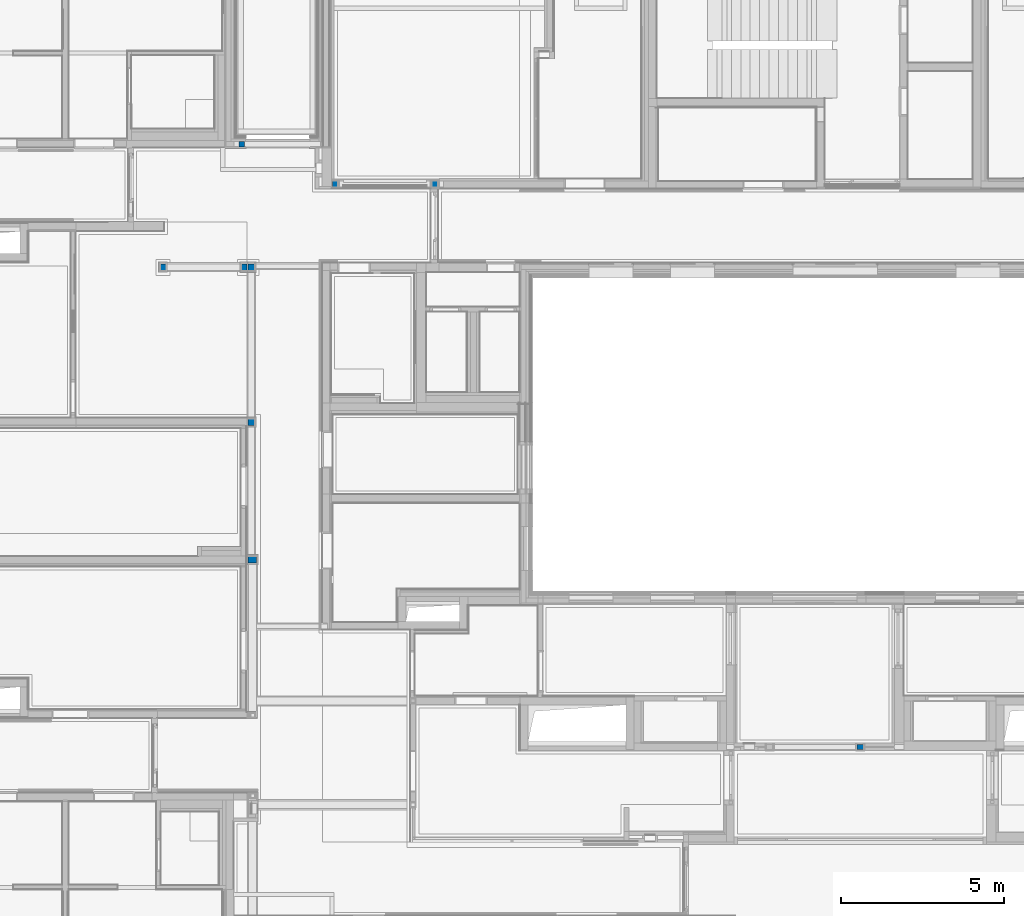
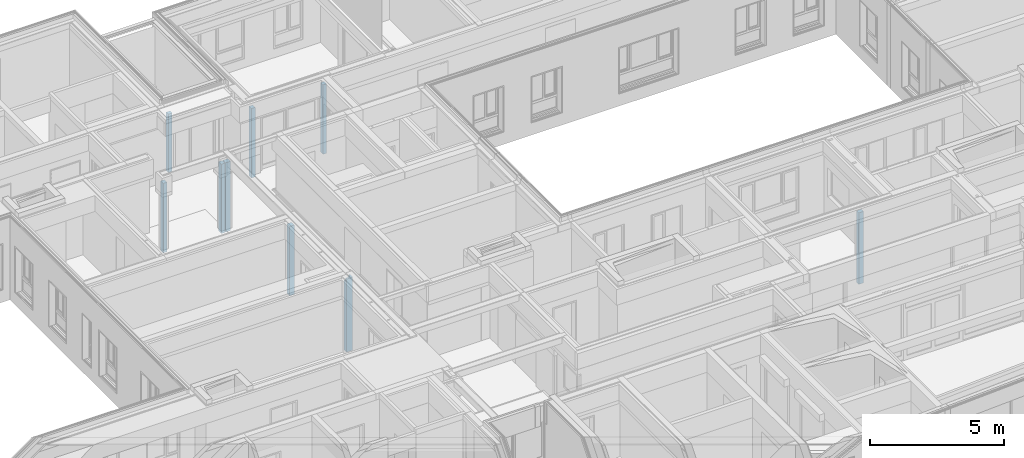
# One storey, part 2 of 222: 9 columns.
"""IFC4 building model written with IfcOpenShell, lengths in metres."""

from ifc_helpers import new_model, entity, si_unit, converted_unit, derived_unit, frame, frame_2d, origin, origin_with_axes, place, context, subcontext, project, spatial, polyline, rectangle, extrude, clip, bounded_halfspace, material, element, save


model = new_model("IFC4")

# Units and contexts
model_context = context("Model", 3, precision=1e-05, world=origin())
body_context = subcontext(model_context, "Body", "Model", "MODEL_VIEW")
ifc_project = project(units=[si_unit("LENGTHUNIT", "METRE"), si_unit("AREAUNIT", "SQUARE_METRE"), si_unit("VOLUMEUNIT", "CUBIC_METRE"), si_unit("MASSUNIT", "GRAM", prefix="KILO"), converted_unit("PLANEANGLEUNIT", "DEGREE", entity("IfcPlaneAngleMeasure", 0.0174532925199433), si_unit("PLANEANGLEUNIT", "RADIAN"), dimensions=[0, 0, 0, 0, 0, 0, 0]), derived_unit("THERMALTRANSMITTANCEUNIT", [(si_unit("POWERUNIT", "WATT"), 1), (si_unit("THERMODYNAMICTEMPERATUREUNIT", "KELVIN"), -1), (si_unit("LENGTHUNIT", "METRE"), -2)]), derived_unit("VOLUMETRICFLOWRATEUNIT", [(si_unit("LENGTHUNIT", "METRE"), 3), (converted_unit("TIMEUNIT", "hour", entity("IfcTimeMeasure", 3600.0), si_unit("TIMEUNIT", "SECOND"), dimensions=[0, 0, 1, 0, 0, 0, 0]), -1), (si_unit("LENGTHUNIT", "METRE"), -1)])], contexts=[model_context])

# Site, building, storey
site_placement = place(None, origin())
site = spatial("IfcSite", under=ifc_project, at=site_placement, Name="Psychiatrie Neubau Wunstorf", CompositionType="ELEMENT")
building_placement = place(site_placement, origin())
building = spatial("IfcBuilding", under=site, at=building_placement, Name="Neubau H2 Stationsgebäude", CompositionType="ELEMENT")
storey_placement = place(building_placement, frame((0.0, 0.0, 3.6)))
storey = spatial("IfcBuildingStorey", under=building, at=storey_placement, Name="H2 Ebene +1", CompositionType="ELEMENT", Elevation=3.6)

# Columns
ifc_material_1 = material(Name="H")
column_1_placement = place(storey_placement, frame((35.33, 24.1500036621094, 0.5)))
element("IfcColumn", 1, at=column_1_placement, inside=storey, material=ifc_material_1, PredefinedType="COLUMN", context=body_context, shape_type="SweptSolid", body=[
    extrude(rectangle(XDim=0.16, YDim=0.16, at=frame_2d((0.08, 0.08), x_axis=(1.0, 0.0))), origin_with_axes(), (0.0, 0.0, 1.0), 2.65),
])
ifc_material_2 = material(Name="H")
column_2_placement = place(storey_placement, frame((41.253, 22.9189990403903, 0.0)))
element("IfcColumn", 2, at=column_2_placement, inside=storey, material=ifc_material_2, PredefinedType="COLUMN", context=body_context, shape_type="SweptSolid", body=[
    extrude(rectangle(XDim=0.16, YDim=0.18, at=frame_2d((0.08, 0.09), x_axis=(1.0, 0.0))), origin_with_axes(), (0.0, 0.0, 1.0), 3.15),
])
ifc_material_3 = material(Name="H")
column_3_placement = place(storey_placement, frame((38.188, 22.9189933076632, 0.0)))
element("IfcColumn", 3, at=column_3_placement, inside=storey, material=ifc_material_3, PredefinedType="COLUMN", context=body_context, shape_type="SweptSolid", body=[
    extrude(rectangle(XDim=0.16, YDim=0.18, at=frame_2d((0.08, 0.09), x_axis=(1.0, 0.0))), origin_with_axes(), (0.0, 0.0, 1.0), 3.15),
])
ifc_material_4 = material(Name="H")
column_4_placement = place(storey_placement, frame((54.4884932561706, 5.65349969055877, 0.0)))
element("IfcColumn", 4, at=column_4_placement, inside=storey, material=ifc_material_4, PredefinedType="COLUMN", context=body_context, shape_type="SweptSolid", body=[
    extrude(rectangle(XDim=0.16, YDim=0.2, at=frame_2d((-0.1, 0.08), x_axis=(0.0, 1.0))), origin_with_axes(), (0.0, 0.0, 1.0), 3.25),
])
ifc_material_5 = material(Name="H")
column_5_placement = place(storey_placement, frame((35.865, 11.573557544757, 0.0)))
element("IfcColumn", 5, at=column_5_placement, inside=storey, material=ifc_material_5, PredefinedType="COLUMN", context=body_context, shape_type="Clipping", body=[
    clip(extrude(rectangle(XDim=0.265, YDim=0.2, at=frame_2d((-0.1325, -0.1), x_axis=(-1.0, 0.0))), origin_with_axes(), (0.0, 0.0, 1.0), 3.317), bounded_halfspace(frame((-0.164999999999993, -0.0600000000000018, 3.15), z_axis=(0.0, 0.0, -1.0), x_axis=(1.0, 0.0, 0.0)), True, origin_with_axes(), polyline([(-0.264999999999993, -0.120000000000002), (-0.0649999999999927, -0.120000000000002), (-0.0649999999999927, 0.0), (-0.265, 0.0), (-0.264999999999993, -0.120000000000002)]))),
])
ifc_material_6 = material(Name="H")
column_6_placement = place(storey_placement, frame((35.6, 15.5964990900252, 0.0)))
element("IfcColumn", 6, at=column_6_placement, inside=storey, material=ifc_material_6, PredefinedType="COLUMN", context=body_context, shape_type="SweptSolid", body=[
    extrude(rectangle(XDim=0.2, YDim=0.2, at=frame_2d((0.1, 0.1), x_axis=(1.0, 0.0))), origin_with_axes(), (0.0, 0.0, 1.0), 3.15),
])
ifc_material_7 = material(Name="H")
column_7_placement = place(storey_placement, frame((35.6, 20.3559956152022, 0.0)))
element("IfcColumn", 7, at=column_7_placement, inside=storey, material=ifc_material_7, PredefinedType="COLUMN", context=body_context, shape_type="SweptSolid", body=[
    extrude(rectangle(XDim=0.2, YDim=0.2, at=frame_2d((0.1, 0.1), x_axis=(1.0, 0.0))), origin_with_axes(), (0.0, 0.0, 1.0), 3.15),
])
ifc_material_8 = material(Name="H")
column_8_placement = place(storey_placement, frame((32.9189956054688, 20.3559973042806, 0.0)))
element("IfcColumn", 8, at=column_8_placement, inside=storey, material=ifc_material_8, PredefinedType="COLUMN", context=body_context, shape_type="SweptSolid", body=[
    extrude(rectangle(XDim=0.16, YDim=0.2, at=frame_2d((0.08, 0.1), x_axis=(1.0, 0.0))), origin_with_axes(), (0.0, 0.0, 1.0), 3.15),
])
ifc_material_9 = material(Name="H")
column_9_placement = place(storey_placement, frame((35.4099975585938, 20.3559973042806, 0.0)))
element("IfcColumn", 9, at=column_9_placement, inside=storey, material=ifc_material_9, PredefinedType="COLUMN", context=body_context, shape_type="SweptSolid", body=[
    extrude(rectangle(XDim=0.16, YDim=0.2, at=frame_2d((0.08, 0.1), x_axis=(1.0, 0.0))), origin_with_axes(), (0.0, 0.0, 1.0), 3.15),
])

save(model, "model.ifc")
